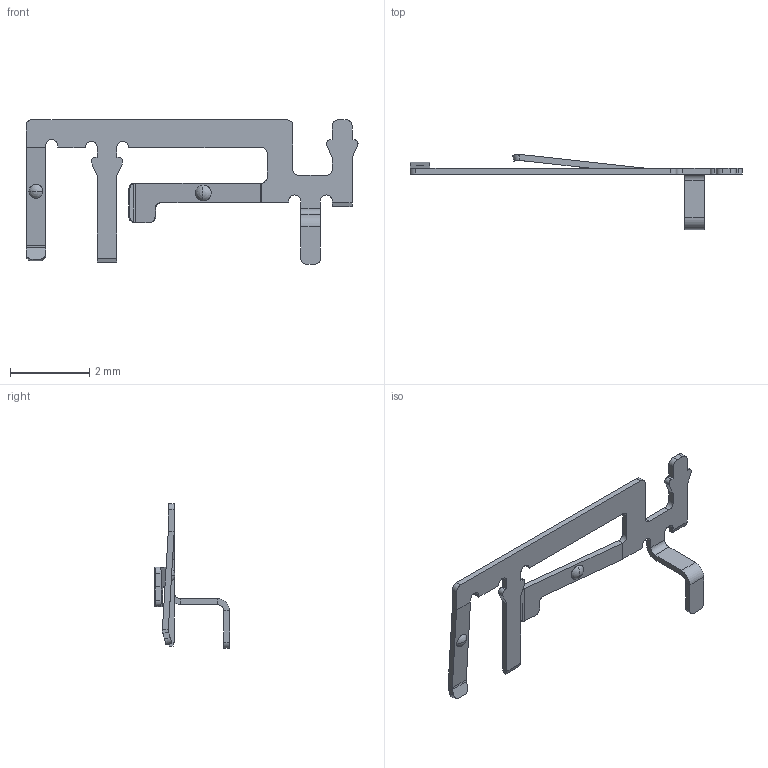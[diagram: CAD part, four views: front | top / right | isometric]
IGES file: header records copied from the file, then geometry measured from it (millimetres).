
Start section:  PTC IGES file: t-dsc20-300x00_1_prt.igs
Global section: file name: t-dsc20-300x00_1_prt.igs; native system: Pro/ENGINEER by Parametric Technology Corporation; preprocessor: 2006170; author: GRA; organization: Unknown; date: 20080630.105213; units: millimetre
Bounding box: 8.4 x 1.9 x 3.65 mm (x, y, z)
Surface area: 34.8 mm2 (no closed solid volume)
Topology: 0 solids, 0 shells, 123 faces, 626 edges, 618 vertices
Faces by surface type: bspline 81, revolution 42
